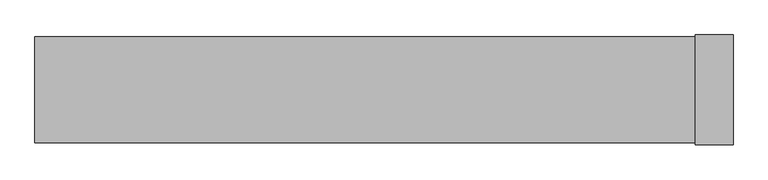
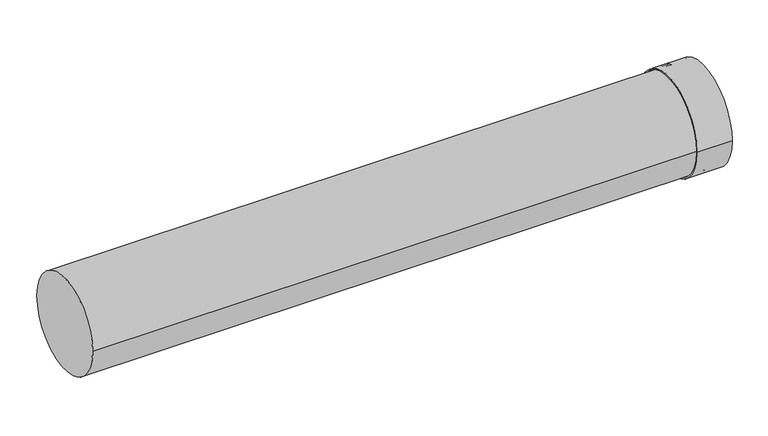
"""IFC4 building model written with IfcOpenShell, lengths in millimetres: duct fitting geometry, NLRS_57_DUF_UN_extension EPS_M&G : ø125 - ø200."""

from ifc_helpers import new_model, si_unit, point, frame, origin, origin_2d, place, context, project, spatial, polyline, circle_curve, trimmed, segment, composite_curve, outline, extrude, source, transform, mapped, element, save
from ifc_brep_helpers import plane_surface, cylinder_surface, revolved_surface, advanced_brep


def duct_fitting_41716dd8(model_context):
    return source(origin(), model_context, "Body", "SolidModel", [
        advanced_brep(
        [(973.0, -81.0, 0.0), (973.0, 81.0, 0.0), (1029.0, 81.0, 0.0), (1029.0, -81.0, 0.0), (973.0, -79.0, 0.0), (973.0, 79.0, 0.0), (1000.0, -79.0, 0.0), (1000.0, 79.0, 0.0), (1000.0, -77.0, 0.0), (1000.0, 77.0, 0.0), (1002.0, -79.0, 0.0), (1002.0, 79.0, 0.0), (1002.0, 77.0, 0.0), (1002.0, -77.0, 0.0), (1029.0, -79.0, 0.0), (1029.0, 79.0, 0.0)],
        [
            (0, 1, circle_curve(frame((973.0, 0.0, 0.0), z_axis=(1.0, 0.0, 0.0), x_axis=(0.0, 1.0, 0.0)), 81.0)),
            (1, 2),
            (2, 3, circle_curve(frame((1029.0, 0.0, 0.0), z_axis=(-1.0, 0.0, 0.0), x_axis=(0.0, 1.0, 0.0)), 81.0)),
            (3, 0),
            (1, 0, circle_curve(frame((973.0, 0.0, 0.0), z_axis=(1.0, 0.0, 0.0), x_axis=(0.0, 1.0, 0.0)), 81.0)),
            (3, 2, circle_curve(frame((1029.0, 0.0, 0.0), z_axis=(-1.0, 0.0, 0.0), x_axis=(0.0, 1.0, 0.0)), 81.0)),
            (4, 5, circle_curve(frame((973.0, 0.0, 0.0), z_axis=(1.0, 0.0, 0.0), x_axis=(0.0, 1.0, 0.0)), 79.0)),
            (5, 1),
            (0, 4),
            (5, 4, circle_curve(frame((973.0, 0.0, 0.0), z_axis=(1.0, 0.0, 0.0), x_axis=(0.0, 1.0, 0.0)), 79.0)),
            (6, 7, circle_curve(frame((1000.0, 0.0, 0.0), z_axis=(1.0, 0.0, 0.0), x_axis=(0.0, 1.0, 0.0)), 79.0)),
            (7, 5),
            (4, 6),
            (7, 6, circle_curve(frame((1000.0, 0.0, 0.0), z_axis=(1.0, 0.0, 0.0), x_axis=(0.0, 1.0, 0.0)), 79.0)),
            (8, 9, circle_curve(frame((1000.0, 0.0, 0.0), z_axis=(1.0, 0.0, 0.0), x_axis=(0.0, 1.0, 0.0)), 77.0)),
            (9, 7),
            (6, 8),
            (9, 8, circle_curve(frame((1000.0, 0.0, 0.0), z_axis=(1.0, 0.0, 0.0), x_axis=(0.0, 1.0, 0.0)), 77.0)),
            (10, 11, circle_curve(frame((1002.0, 0.0, 0.0), z_axis=(1.0, 0.0, 0.0), x_axis=(0.0, 1.0, 0.0)), 79.0)),
            (11, 12),
            (12, 13, circle_curve(frame((1002.0, 0.0, 0.0), z_axis=(-1.0, 0.0, 0.0), x_axis=(0.0, 1.0, 0.0)), 77.0)),
            (13, 10),
            (11, 10, circle_curve(frame((1002.0, 0.0, 0.0), z_axis=(1.0, 0.0, 0.0), x_axis=(0.0, 1.0, 0.0)), 79.0)),
            (13, 12, circle_curve(frame((1002.0, 0.0, 0.0), z_axis=(-1.0, 0.0, 0.0), x_axis=(0.0, 1.0, 0.0)), 77.0)),
            (14, 15, circle_curve(frame((1029.0, 0.0, 0.0), z_axis=(1.0, 0.0, 0.0), x_axis=(0.0, 1.0, 0.0)), 79.0)),
            (15, 11),
            (10, 14),
            (15, 14, circle_curve(frame((1029.0, 0.0, 0.0), z_axis=(1.0, 0.0, 0.0), x_axis=(0.0, 1.0, 0.0)), 79.0)),
            (2, 15),
            (14, 3),
            (12, 9),
            (8, 13),
        ],
        [
            cylinder_surface(frame((2976.5, 0.0, 0.0), z_axis=(-1.0, 0.0, 0.0), x_axis=(0.0, 1.0, 0.0)), 81.0),
            plane_surface(frame((973.0, 0.0, 0.0), z_axis=(-1.0, 0.0, 0.0), x_axis=(0.0, 1.0, 0.0))),
            revolved_surface(polyline([(973.0, 79.0, 0.0), (1000.0, 79.0, 0.0)]), (2976.5, 0.0, 0.0), (-1.0, 0.0, 0.0)),
            plane_surface(frame((1000.0, 0.0, 0.0), z_axis=(-1.0, 0.0, 0.0), x_axis=(0.0, 1.0, 0.0))),
            plane_surface(frame((1002.0, 0.0, 0.0), z_axis=(1.0, 0.0, 0.0), x_axis=(0.0, 1.0, 0.0))),
            revolved_surface(polyline([(1002.0, 79.0, 0.0), (1029.0, 79.0, 0.0)]), (2976.5, 0.0, 0.0), (-1.0, 0.0, 0.0)),
            plane_surface(frame((1029.0, 0.0, 0.0), z_axis=(1.0, 0.0, 0.0), x_axis=(0.0, 1.0, 0.0))),
            revolved_surface(polyline([(1000.0, 77.0, 0.0), (1002.0, 77.0, 0.0)]), (2976.5, 0.0, 0.0), (-1.0, 0.0, 0.0)),
        ],
        [
            (0, [[1, 2, 3, 4]]),
            (0, [[5, -4, 6, -2]]),
            (1, [[7, 8, -1, 9]]),
            (1, [[10, -9, -5, -8]]),
            (2, [[11, 12, -7, 13]]),
            (2, [[14, -13, -10, -12]]),
            (3, [[15, 16, -11, 17]]),
            (3, [[18, -17, -14, -16]]),
            (4, [[19, 20, 21, 22]]),
            (4, [[23, -22, 24, -20]]),
            (5, [[25, 26, -19, 27]]),
            (5, [[28, -27, -23, -26]]),
            (6, [[-3, 29, -25, 30]]),
            (6, [[-6, -30, -28, -29]]),
            (7, [[-21, 31, -15, 32]]),
            (7, [[-24, -32, -18, -31]]),
        ],
    ),
        extrude(outline(composite_curve([segment(trimmed(circle_curve(origin_2d(), 78.0), [point((-78.0, 0.0))], [point((78.0, 0.0))], False, "CARTESIAN"), True, "CONTINUOUS"), segment(trimmed(circle_curve(origin_2d(), 78.0), [point((78.0, 0.0))], [point((-78.0, 0.0))], False, "CARTESIAN"), True, "CONTINUOUS")], self_intersect=False)), frame((0.0, 0.0, 0.0), z_axis=(1.0, 0.0, 0.0), x_axis=(0.0, 1.0, 0.0)), (0.0, 0.0, 1.0), 1000.0),
    ])


if __name__ == "__main__":
    model = new_model("IFC4")
    model_context = context("Model", 3, world=origin())
    ifc_project = project(units=[si_unit("LENGTHUNIT", "METRE", prefix="MILLI")], contexts=[model_context])
    site = spatial("IfcSite", under=ifc_project)
    building = spatial("IfcBuilding", under=site)
    placement = place(None, origin())
    duct_fitting_shape = duct_fitting_41716dd8(model_context)
    element("IfcDuctFitting", 1, ObjectType="NLRS_57_DUF_UN_extension EPS_M&G : ø125 - ø200", at=placement, inside=building, context=model_context, shape_type="MappedRepresentation", body=[
        mapped(duct_fitting_shape, transform((0.0, 0.0, 0.0), x_axis=(1.0, 0.0, 0.0), y_axis=(0.0, 1.0, 0.0), z_axis=(0.0, 0.0, 1.0))),
    ])
    save(model, "model.ifc")
